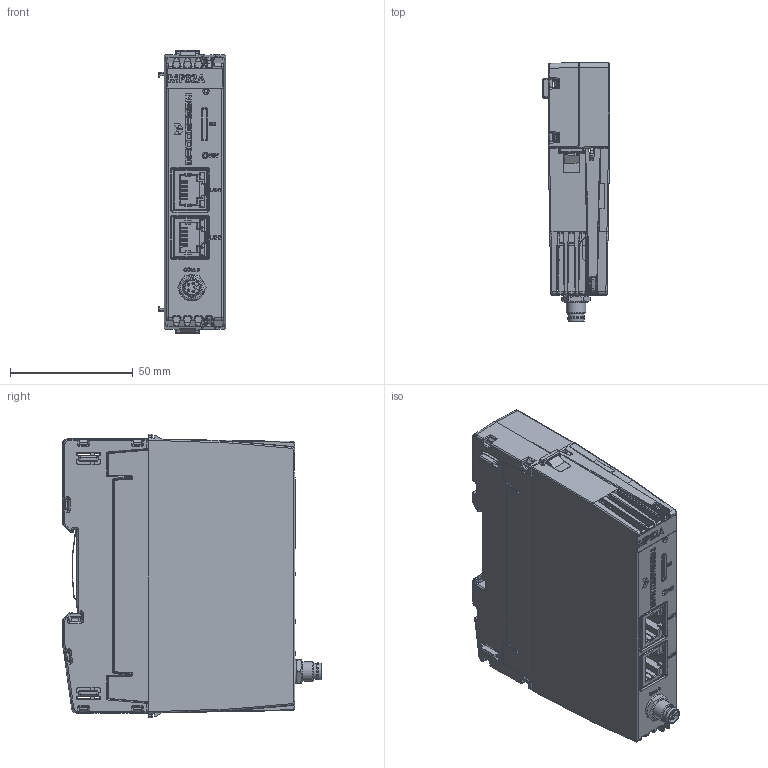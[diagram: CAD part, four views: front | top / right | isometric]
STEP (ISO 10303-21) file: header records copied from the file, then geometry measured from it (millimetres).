
FILE_DESCRIPTION(/* description */ (''),/* implementation_level */ '2;1');
FILE_NAME(/* name */ 'C:\Users\Public\Documents\Autodesk\Inventor 2023\MP32A_REVB_Simplified+BB61A.stp',/* time_stamp */ '2024-11-14T13:19:25+01:00',/* author */ ('asho'),/* organization */ (''),/* preprocessor_version */ 'ST-DEVELOPER v19',/* originating_system */ 'Autodesk Inventor 2023',/* authorisation */ '');
FILE_SCHEMA (('AUTOMOTIVE_DESIGN { 1 0 10303 214 3 1 1 }'));
Products named in the file (1): MP32A_REVB_Simplified+BB61A
Bounding box: 27.4 x 105.31 x 115.5 mm (x, y, z)
Volume: 111500.5 mm3; surface area: 83788.9 mm2
Topology: 9 solids, 10 shells, 6258 faces, 17031 edges, 10684 vertices
Faces by surface type: plane 3587, cylinder 1752, bspline 623, sphere 188, torus 70, cone 38
Full cylindrical faces by diameter (mm): 0.3 x39, 0.5 x2, 0.7 x36, 0.75 x2, 0.8 x17, 0.85 x24, 0.9 x28, 1 x8, 1.02 x8, 1.1 x1, 1.3 x4, 1.4 x4, 1.6 x3, 1.7 x4, 2.35 x2, 2.5 x1, 3 x3, 3.2 x4, 3.25 x2, 5.8 x1, 6.5 x1, 6.9 x1, 6.917 x1, 7.896 x1, 8.416 x2, 9 x1, 10.69 x1
Entity records: 222360 total; most frequent: CARTESIAN_POINT 59366, ORIENTED_EDGE 33692, DIRECTION 31246, EDGE_CURVE 16846, LINE 11726, VECTOR 11726, VERTEX_POINT 10684, AXIS2_PLACEMENT_3D 9760
